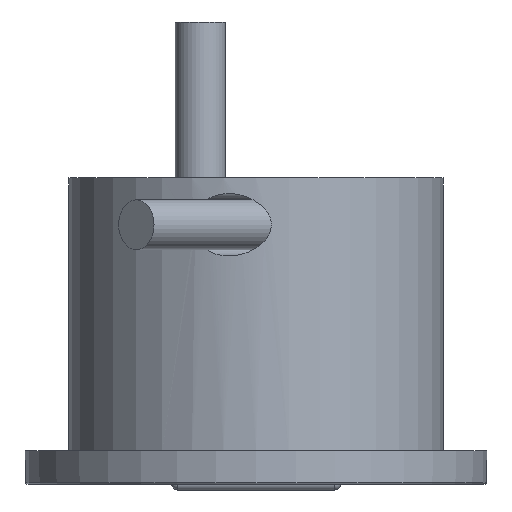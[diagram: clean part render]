
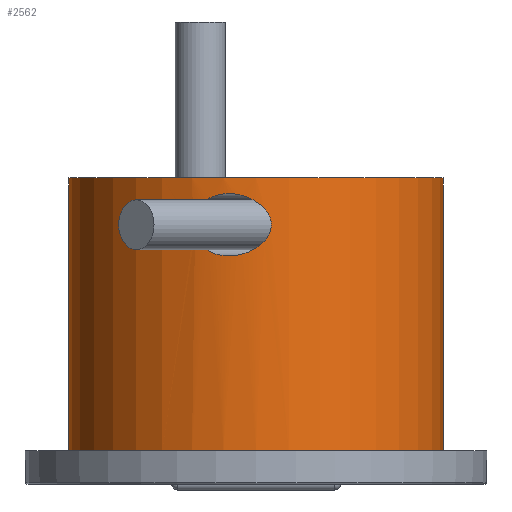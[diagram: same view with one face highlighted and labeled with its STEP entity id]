
A CAD part, front view. The second image highlights one B-rep face of the part: STEP entity #2562.
In plain terms, the highlighted cylindrical face has radius 30 mm (diameter 60 mm), a full revolution.
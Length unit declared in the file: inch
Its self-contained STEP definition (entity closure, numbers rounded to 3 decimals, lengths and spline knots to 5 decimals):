
#2179=CARTESIAN_POINT('',(-0.39572,-1.11284,1.42717));
#2180=VERTEX_POINT('',#2179);
#2181=CARTESIAN_POINT('',(0.09677,-1.17713,1.42717));
#2182=CARTESIAN_POINT('',(0.09677,-1.17713,1.43972));
#2183=CARTESIAN_POINT('',(0.09488,-1.17729,1.45236));
#2184=CARTESIAN_POINT('',(0.08757,-1.17786,1.47695));
#2185=CARTESIAN_POINT('',(0.08215,-1.17826,1.48889));
#2186=CARTESIAN_POINT('',(0.06181,-1.17956,1.52262));
#2187=CARTESIAN_POINT('',(0.04268,-1.1805,1.54232));
#2188=CARTESIAN_POINT('',(-0.00354,-1.18139,1.57845));
#2189=CARTESIAN_POINT('',(-0.03576,-1.18105,1.59543));
#2190=CARTESIAN_POINT('',(-0.10382,-1.17702,1.61825));
#2191=CARTESIAN_POINT('',(-0.13968,-1.17329,1.62402));
#2192=CARTESIAN_POINT('',(-0.20212,-1.16406,1.62402));
#2193=CARTESIAN_POINT('',(-0.23352,-1.15817,1.61946));
#2194=CARTESIAN_POINT('',(-0.29139,-1.14498,1.59868));
#2195=CARTESIAN_POINT('',(-0.31784,-1.13774,1.58241));
#2196=CARTESIAN_POINT('',(-0.35562,-1.12644,1.54561));
#2197=CARTESIAN_POINT('',(-0.37067,-1.12148,1.52439));
#2198=CARTESIAN_POINT('',(-0.39071,-1.11466,1.47735));
#2199=CARTESIAN_POINT('',(-0.39572,-1.11284,1.45153));
#2200=CARTESIAN_POINT('',(-0.39572,-1.11284,1.4028));
#2201=CARTESIAN_POINT('',(-0.39071,-1.11466,1.37698));
#2202=CARTESIAN_POINT('',(-0.37067,-1.12148,1.32994));
#2203=CARTESIAN_POINT('',(-0.35562,-1.12644,1.30872));
#2204=CARTESIAN_POINT('',(-0.31784,-1.13774,1.27193));
#2205=CARTESIAN_POINT('',(-0.29139,-1.14498,1.25565));
#2206=CARTESIAN_POINT('',(-0.23352,-1.15817,1.23487));
#2207=CARTESIAN_POINT('',(-0.20212,-1.16406,1.23031));
#2208=CARTESIAN_POINT('',(-0.13968,-1.17329,1.23031));
#2209=CARTESIAN_POINT('',(-0.10382,-1.17702,1.23609));
#2210=CARTESIAN_POINT('',(-0.03576,-1.18105,1.2589));
#2211=CARTESIAN_POINT('',(-0.00354,-1.18139,1.27588));
#2212=CARTESIAN_POINT('',(0.04268,-1.1805,1.31201));
#2213=CARTESIAN_POINT('',(0.06181,-1.17956,1.33171));
#2214=CARTESIAN_POINT('',(0.08215,-1.17826,1.36544));
#2215=CARTESIAN_POINT('',(0.08757,-1.17786,1.37738));
#2216=CARTESIAN_POINT('',(0.09488,-1.17729,1.40197));
#2217=CARTESIAN_POINT('',(0.09677,-1.17713,1.41461));
#2218=CARTESIAN_POINT('',(0.09677,-1.17713,1.42717));
#2219=B_SPLINE_CURVE_WITH_KNOTS('',3,(#2181,#2182,#2183,#2184,#2185,#2186,#2187,#2188,#2189,#2190,#2191,#2192,#2193,#2194,#2195,#2196,#2197,#2198,#2199,#2200,#2201,#2202,#2203,#2204,#2205,#2206,#2207,#2208,#2209,#2210,#2211,#2212,#2213,#2214,#2215,#2216,#2217,#2218),.UNSPECIFIED.,.T.,.U.,(4,2,2,2,2,2,2,2,2,2,2,2,2,2,2,2,2,2,4),(-3.43216,-3.33648,-3.24081,-3.04945,-2.79373,-2.53801,-2.31273,-2.08746,-1.90177,-1.71608,-1.53039,-1.3447,-1.11943,-0.89415,-0.63843,-0.38271,-0.19135,-0.09568,0.0),.UNSPECIFIED.);
#2220=EDGE_CURVE('',#2180,#2180,#2219,.T.);
#2532=CARTESIAN_POINT('',(0.0,0.0,1.72244));
#2533=DIRECTION('',(0.0,0.0,-1.0));
#2534=DIRECTION('',(-1.0,0.0,0.0));
#2535=AXIS2_PLACEMENT_3D('',#2532,#2533,#2534);
#2536=CYLINDRICAL_SURFACE('',#2535,1.1811);
#2537=CARTESIAN_POINT('',(-1.1811,0.0,1.72244));
#2538=VERTEX_POINT('',#2537);
#2539=CARTESIAN_POINT('',(0.0,0.0,1.72244));
#2540=DIRECTION('',(0.0,0.0,1.0));
#2541=DIRECTION('',(1.0,0.0,0.0));
#2542=AXIS2_PLACEMENT_3D('',#2539,#2540,#2541);
#2543=CIRCLE('',#2542,1.1811);
#2544=EDGE_CURVE('',#2538,#2538,#2543,.T.);
#2545=ORIENTED_EDGE('',*,*,#2544,.F.);
#2546=EDGE_LOOP('',(#2545));
#2547=FACE_OUTER_BOUND('',#2546,.T.);
#2548=ORIENTED_EDGE('',*,*,#2220,.F.);
#2549=EDGE_LOOP('',(#2548));
#2550=FACE_BOUND('',#2549,.T.);
#2551=CARTESIAN_POINT('',(-1.1811,0.0,0.0));
#2552=VERTEX_POINT('',#2551);
#2553=CARTESIAN_POINT('',(0.0,0.0,0.0));
#2554=DIRECTION('',(0.0,0.0,1.0));
#2555=DIRECTION('',(-1.0,0.0,0.0));
#2556=AXIS2_PLACEMENT_3D('',#2553,#2554,#2555);
#2557=CIRCLE('',#2556,1.1811);
#2558=EDGE_CURVE('',#2552,#2552,#2557,.T.);
#2559=ORIENTED_EDGE('',*,*,#2558,.T.);
#2560=EDGE_LOOP('',(#2559));
#2561=FACE_BOUND('',#2560,.T.);
#2562=ADVANCED_FACE('',(#2547,#2550,#2561),#2536,.T.);
